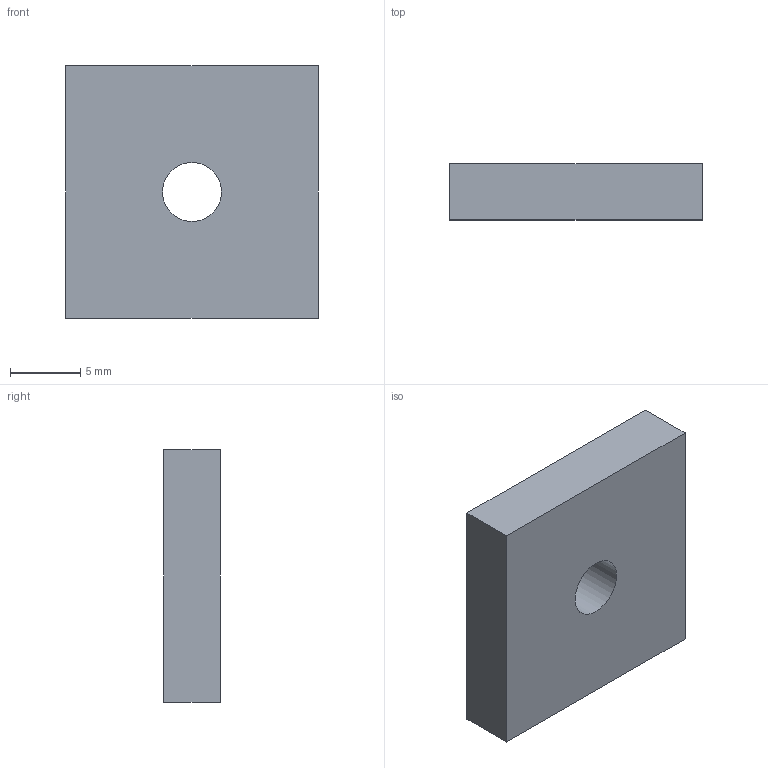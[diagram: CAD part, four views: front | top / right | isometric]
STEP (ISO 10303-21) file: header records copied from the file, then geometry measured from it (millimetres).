
FILE_DESCRIPTION(/* description */ ('Unknown'),/* implementation_level */ '2;1');
FILE_NAME(/* name */ 'BSN10M5',/* time_stamp */ '2018-11-12T17:12:14+00:00',/* author */ ('Unknown'),/* organization */ ('Unknown'),/* preprocessor_version */ 'ST-DEVELOPER v16.7',/* originating_system */ 'DEX',/* authorisation */ $);
FILE_SCHEMA (('AUTOMOTIVE_DESIGN {1 0 10303 214 3 1 1}'));
Length unit declared in the file: millimetre
Products named in the file (1): BSN10M5
Bounding box: 18 x 4 x 18 mm (x, y, z)
Volume: 1240.6 mm3; surface area: 961.1 mm2
Topology: 1 solids, 1 shells, 7 faces, 15 edges, 10 vertices
Faces by surface type: plane 6, cylinder 1
Full cylindrical faces by diameter (mm): 4.2 x1
Entity records: 220 total; most frequent: DIRECTION 32, CARTESIAN_POINT 32, ORIENTED_EDGE 28, EDGE_CURVE 14, LINE 12, VECTOR 12, VERTEX_POINT 10, EDGE_LOOP 10
